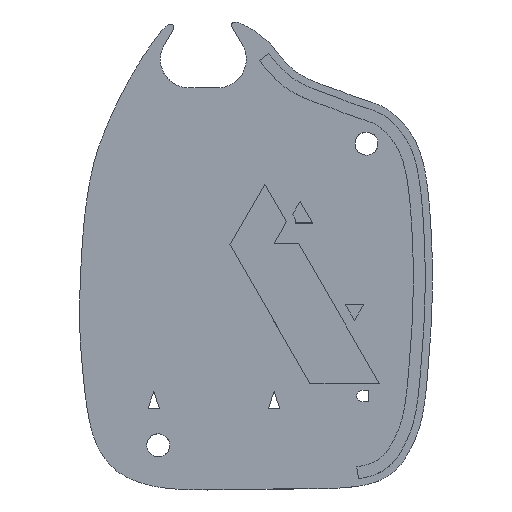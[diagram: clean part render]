
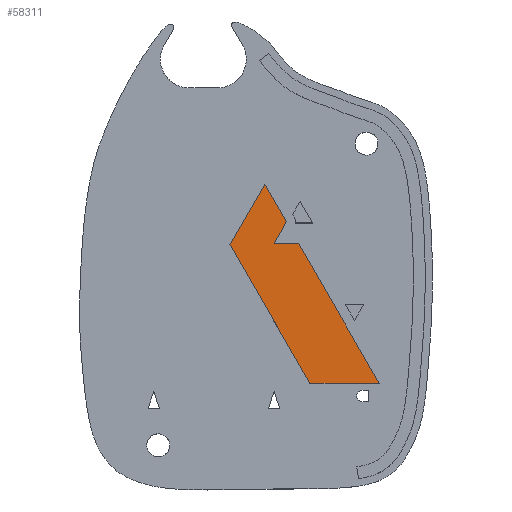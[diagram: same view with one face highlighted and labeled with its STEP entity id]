
A CAD part, top view. The second image highlights one B-rep face of the part: STEP entity #58311.
In plain terms, the highlighted planar face has unit normal (0, 0, 1).
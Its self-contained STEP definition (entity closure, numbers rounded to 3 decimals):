
#24710 = PLANE('',#24711);
#24711 = AXIS2_PLACEMENT_3D('',#24712,#24713,#24714);
#24712 = CARTESIAN_POINT('',(6.345,-15.207,5.59));
#24713 = DIRECTION('',(0.,1.,0.));
#24714 = DIRECTION('',(1.,0.,0.));
#24736 = PLANE('',#24737);
#24737 = AXIS2_PLACEMENT_3D('',#24738,#24739,#24740);
#24738 = CARTESIAN_POINT('',(-3.066,1.126,5.59));
#24739 = DIRECTION('',(0.866,0.499,-0.));
#24740 = DIRECTION('',(0.499,-0.866,0.));
#24762 = PLANE('',#24763);
#24763 = AXIS2_PLACEMENT_3D('',#24764,#24765,#24766);
#24764 = CARTESIAN_POINT('',(1.046,8.207,5.59));
#24765 = DIRECTION('',(0.865,-0.502,0.));
#24766 = DIRECTION('',(-0.502,-0.865,0.));
#24788 = PLANE('',#24789);
#24789 = AXIS2_PLACEMENT_3D('',#24790,#24791,#24792);
#24790 = CARTESIAN_POINT('',(3.581,3.798,5.59));
#24791 = DIRECTION('',(-0.867,-0.499,0.));
#24792 = DIRECTION('',(-0.499,0.867,0.));
#24814 = PLANE('',#24815);
#24815 = AXIS2_PLACEMENT_3D('',#24816,#24817,#24818);
#24816 = CARTESIAN_POINT('',(2.119,1.24,5.59));
#24817 = DIRECTION('',(-0.868,0.496,0.));
#24818 = DIRECTION('',(0.496,0.868,0.));
#24840 = PLANE('',#24841);
#24841 = AXIS2_PLACEMENT_3D('',#24842,#24843,#24844);
#24842 = CARTESIAN_POINT('',(5.02,1.24,5.59));
#24843 = DIRECTION('',(0.,-1.,0.));
#24844 = DIRECTION('',(-1.,0.,0.));
#24864 = PLANE('',#24865);
#24865 = AXIS2_PLACEMENT_3D('',#24866,#24867,#24868);
#24866 = CARTESIAN_POINT('',(14.5,-15.207,5.59));
#24867 = DIRECTION('',(-0.866,-0.499,0.));
#24868 = DIRECTION('',(-0.499,0.866,0.));
#46243 = VERTEX_POINT('',#46244);
#46244 = CARTESIAN_POINT('',(6.345,-15.207,8.4));
#46265 = EDGE_CURVE('',#46243,#46266,#46268,.T.);
#46266 = VERTEX_POINT('',#46267);
#46267 = CARTESIAN_POINT('',(14.5,-15.207,8.4));
#46268 = SURFACE_CURVE('',#46269,(#46273,#46280),.PCURVE_S1.);
#46269 = LINE('',#46270,#46271);
#46270 = CARTESIAN_POINT('',(6.345,-15.207,8.4));
#46271 = VECTOR('',#46272,1.);
#46272 = DIRECTION('',(1.,0.,0.));
#46273 = PCURVE('',#24710,#46274);
#46274 = DEFINITIONAL_REPRESENTATION('',(#46275),#46279);
#46275 = LINE('',#46276,#46277);
#46276 = CARTESIAN_POINT('',(0.,-2.81));
#46277 = VECTOR('',#46278,1.);
#46278 = DIRECTION('',(1.,0.));
#46279 = ( GEOMETRIC_REPRESENTATION_CONTEXT(2) 
PARAMETRIC_REPRESENTATION_CONTEXT() REPRESENTATION_CONTEXT('2D SPACE',''
  ) );
#46280 = PCURVE('',#46281,#46286);
#46281 = PLANE('',#46282);
#46282 = AXIS2_PLACEMENT_3D('',#46283,#46284,#46285);
#46283 = CARTESIAN_POINT('',(4.967,-4.754,8.4));
#46284 = DIRECTION('',(0.,0.,1.));
#46285 = DIRECTION('',(1.,0.,-0.));
#46286 = DEFINITIONAL_REPRESENTATION('',(#46287),#46291);
#46287 = LINE('',#46288,#46289);
#46288 = CARTESIAN_POINT('',(1.378,-10.453));
#46289 = VECTOR('',#46290,1.);
#46290 = DIRECTION('',(1.,0.));
#46291 = ( GEOMETRIC_REPRESENTATION_CONTEXT(2) 
PARAMETRIC_REPRESENTATION_CONTEXT() REPRESENTATION_CONTEXT('2D SPACE',''
  ) );
#46319 = EDGE_CURVE('',#46266,#46320,#46322,.T.);
#46320 = VERTEX_POINT('',#46321);
#46321 = CARTESIAN_POINT('',(5.02,1.24,8.4));
#46322 = SURFACE_CURVE('',#46323,(#46327,#46334),.PCURVE_S1.);
#46323 = LINE('',#46324,#46325);
#46324 = CARTESIAN_POINT('',(14.5,-15.207,8.4));
#46325 = VECTOR('',#46326,1.);
#46326 = DIRECTION('',(-0.499,0.866,0.));
#46327 = PCURVE('',#24864,#46328);
#46328 = DEFINITIONAL_REPRESENTATION('',(#46329),#46333);
#46329 = LINE('',#46330,#46331);
#46330 = CARTESIAN_POINT('',(0.,-2.81));
#46331 = VECTOR('',#46332,1.);
#46332 = DIRECTION('',(1.,0.));
#46333 = ( GEOMETRIC_REPRESENTATION_CONTEXT(2) 
PARAMETRIC_REPRESENTATION_CONTEXT() REPRESENTATION_CONTEXT('2D SPACE',''
  ) );
#46334 = PCURVE('',#46281,#46335);
#46335 = DEFINITIONAL_REPRESENTATION('',(#46336),#46340);
#46336 = LINE('',#46337,#46338);
#46337 = CARTESIAN_POINT('',(9.533,-10.453));
#46338 = VECTOR('',#46339,1.);
#46339 = DIRECTION('',(-0.499,0.866));
#46340 = ( GEOMETRIC_REPRESENTATION_CONTEXT(2) 
PARAMETRIC_REPRESENTATION_CONTEXT() REPRESENTATION_CONTEXT('2D SPACE',''
  ) );
#46368 = EDGE_CURVE('',#46320,#46369,#46371,.T.);
#46369 = VERTEX_POINT('',#46370);
#46370 = CARTESIAN_POINT('',(2.119,1.24,8.4));
#46371 = SURFACE_CURVE('',#46372,(#46376,#46383),.PCURVE_S1.);
#46372 = LINE('',#46373,#46374);
#46373 = CARTESIAN_POINT('',(5.02,1.24,8.4));
#46374 = VECTOR('',#46375,1.);
#46375 = DIRECTION('',(-1.,0.,0.));
#46376 = PCURVE('',#24840,#46377);
#46377 = DEFINITIONAL_REPRESENTATION('',(#46378),#46382);
#46378 = LINE('',#46379,#46380);
#46379 = CARTESIAN_POINT('',(0.,-2.81));
#46380 = VECTOR('',#46381,1.);
#46381 = DIRECTION('',(1.,0.));
#46382 = ( GEOMETRIC_REPRESENTATION_CONTEXT(2) 
PARAMETRIC_REPRESENTATION_CONTEXT() REPRESENTATION_CONTEXT('2D SPACE',''
  ) );
#46383 = PCURVE('',#46281,#46384);
#46384 = DEFINITIONAL_REPRESENTATION('',(#46385),#46389);
#46385 = LINE('',#46386,#46387);
#46386 = CARTESIAN_POINT('',(0.053,5.994));
#46387 = VECTOR('',#46388,1.);
#46388 = DIRECTION('',(-1.,0.));
#46389 = ( GEOMETRIC_REPRESENTATION_CONTEXT(2) 
PARAMETRIC_REPRESENTATION_CONTEXT() REPRESENTATION_CONTEXT('2D SPACE',''
  ) );
#46417 = EDGE_CURVE('',#46369,#46418,#46420,.T.);
#46418 = VERTEX_POINT('',#46419);
#46419 = CARTESIAN_POINT('',(3.581,3.798,8.4));
#46420 = SURFACE_CURVE('',#46421,(#46425,#46432),.PCURVE_S1.);
#46421 = LINE('',#46422,#46423);
#46422 = CARTESIAN_POINT('',(2.119,1.24,8.4));
#46423 = VECTOR('',#46424,1.);
#46424 = DIRECTION('',(0.496,0.868,0.));
#46425 = PCURVE('',#24814,#46426);
#46426 = DEFINITIONAL_REPRESENTATION('',(#46427),#46431);
#46427 = LINE('',#46428,#46429);
#46428 = CARTESIAN_POINT('',(0.,-2.81));
#46429 = VECTOR('',#46430,1.);
#46430 = DIRECTION('',(1.,0.));
#46431 = ( GEOMETRIC_REPRESENTATION_CONTEXT(2) 
PARAMETRIC_REPRESENTATION_CONTEXT() REPRESENTATION_CONTEXT('2D SPACE',''
  ) );
#46432 = PCURVE('',#46281,#46433);
#46433 = DEFINITIONAL_REPRESENTATION('',(#46434),#46438);
#46434 = LINE('',#46435,#46436);
#46435 = CARTESIAN_POINT('',(-2.848,5.994));
#46436 = VECTOR('',#46437,1.);
#46437 = DIRECTION('',(0.496,0.868));
#46438 = ( GEOMETRIC_REPRESENTATION_CONTEXT(2) 
PARAMETRIC_REPRESENTATION_CONTEXT() REPRESENTATION_CONTEXT('2D SPACE',''
  ) );
#46466 = EDGE_CURVE('',#46418,#46467,#46469,.T.);
#46467 = VERTEX_POINT('',#46468);
#46468 = CARTESIAN_POINT('',(1.046,8.207,8.4));
#46469 = SURFACE_CURVE('',#46470,(#46474,#46481),.PCURVE_S1.);
#46470 = LINE('',#46471,#46472);
#46471 = CARTESIAN_POINT('',(3.581,3.798,8.4));
#46472 = VECTOR('',#46473,1.);
#46473 = DIRECTION('',(-0.499,0.867,0.));
#46474 = PCURVE('',#24788,#46475);
#46475 = DEFINITIONAL_REPRESENTATION('',(#46476),#46480);
#46476 = LINE('',#46477,#46478);
#46477 = CARTESIAN_POINT('',(0.,-2.81));
#46478 = VECTOR('',#46479,1.);
#46479 = DIRECTION('',(1.,0.));
#46480 = ( GEOMETRIC_REPRESENTATION_CONTEXT(2) 
PARAMETRIC_REPRESENTATION_CONTEXT() REPRESENTATION_CONTEXT('2D SPACE',''
  ) );
#46481 = PCURVE('',#46281,#46482);
#46482 = DEFINITIONAL_REPRESENTATION('',(#46483),#46487);
#46483 = LINE('',#46484,#46485);
#46484 = CARTESIAN_POINT('',(-1.386,8.552));
#46485 = VECTOR('',#46486,1.);
#46486 = DIRECTION('',(-0.499,0.867));
#46487 = ( GEOMETRIC_REPRESENTATION_CONTEXT(2) 
PARAMETRIC_REPRESENTATION_CONTEXT() REPRESENTATION_CONTEXT('2D SPACE',''
  ) );
#46515 = EDGE_CURVE('',#46467,#46516,#46518,.T.);
#46516 = VERTEX_POINT('',#46517);
#46517 = CARTESIAN_POINT('',(-3.066,1.126,8.4));
#46518 = SURFACE_CURVE('',#46519,(#46523,#46530),.PCURVE_S1.);
#46519 = LINE('',#46520,#46521);
#46520 = CARTESIAN_POINT('',(1.046,8.207,8.4));
#46521 = VECTOR('',#46522,1.);
#46522 = DIRECTION('',(-0.502,-0.865,0.));
#46523 = PCURVE('',#24762,#46524);
#46524 = DEFINITIONAL_REPRESENTATION('',(#46525),#46529);
#46525 = LINE('',#46526,#46527);
#46526 = CARTESIAN_POINT('',(0.,-2.81));
#46527 = VECTOR('',#46528,1.);
#46528 = DIRECTION('',(1.,0.));
#46529 = ( GEOMETRIC_REPRESENTATION_CONTEXT(2) 
PARAMETRIC_REPRESENTATION_CONTEXT() REPRESENTATION_CONTEXT('2D SPACE',''
  ) );
#46530 = PCURVE('',#46281,#46531);
#46531 = DEFINITIONAL_REPRESENTATION('',(#46532),#46536);
#46532 = LINE('',#46533,#46534);
#46533 = CARTESIAN_POINT('',(-3.922,12.961));
#46534 = VECTOR('',#46535,1.);
#46535 = DIRECTION('',(-0.502,-0.865));
#46536 = ( GEOMETRIC_REPRESENTATION_CONTEXT(2) 
PARAMETRIC_REPRESENTATION_CONTEXT() REPRESENTATION_CONTEXT('2D SPACE',''
  ) );
#46564 = EDGE_CURVE('',#46516,#46243,#46565,.T.);
#46565 = SURFACE_CURVE('',#46566,(#46570,#46577),.PCURVE_S1.);
#46566 = LINE('',#46567,#46568);
#46567 = CARTESIAN_POINT('',(-3.066,1.126,8.4));
#46568 = VECTOR('',#46569,1.);
#46569 = DIRECTION('',(0.499,-0.866,0.));
#46570 = PCURVE('',#24736,#46571);
#46571 = DEFINITIONAL_REPRESENTATION('',(#46572),#46576);
#46572 = LINE('',#46573,#46574);
#46573 = CARTESIAN_POINT('',(0.,-2.81));
#46574 = VECTOR('',#46575,1.);
#46575 = DIRECTION('',(1.,0.));
#46576 = ( GEOMETRIC_REPRESENTATION_CONTEXT(2) 
PARAMETRIC_REPRESENTATION_CONTEXT() REPRESENTATION_CONTEXT('2D SPACE',''
  ) );
#46577 = PCURVE('',#46281,#46578);
#46578 = DEFINITIONAL_REPRESENTATION('',(#46579),#46583);
#46579 = LINE('',#46580,#46581);
#46580 = CARTESIAN_POINT('',(-8.033,5.88));
#46581 = VECTOR('',#46582,1.);
#46582 = DIRECTION('',(0.499,-0.866));
#46583 = ( GEOMETRIC_REPRESENTATION_CONTEXT(2) 
PARAMETRIC_REPRESENTATION_CONTEXT() REPRESENTATION_CONTEXT('2D SPACE',''
  ) );
#58311 = ADVANCED_FACE('',(#58312),#46281,.T.);
#58312 = FACE_BOUND('',#58313,.T.);
#58313 = EDGE_LOOP('',(#58314,#58315,#58316,#58317,#58318,#58319,#58320)
  );
#58314 = ORIENTED_EDGE('',*,*,#46564,.T.);
#58315 = ORIENTED_EDGE('',*,*,#46265,.T.);
#58316 = ORIENTED_EDGE('',*,*,#46319,.T.);
#58317 = ORIENTED_EDGE('',*,*,#46368,.T.);
#58318 = ORIENTED_EDGE('',*,*,#46417,.T.);
#58319 = ORIENTED_EDGE('',*,*,#46466,.T.);
#58320 = ORIENTED_EDGE('',*,*,#46515,.T.);
